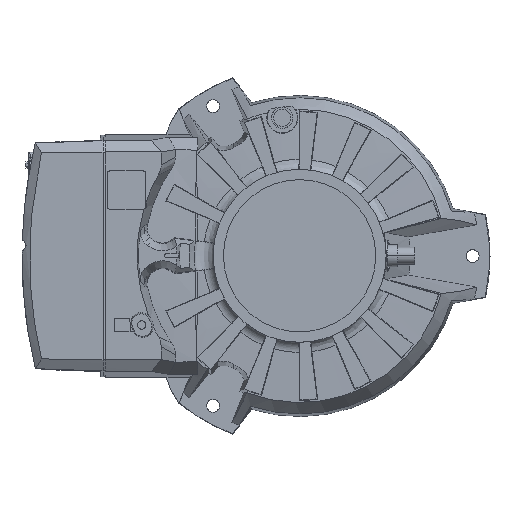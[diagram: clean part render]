
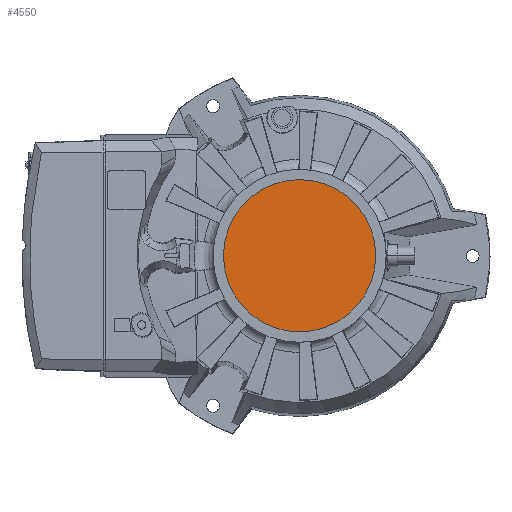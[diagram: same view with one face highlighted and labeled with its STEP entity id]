
A CAD part, top view. The second image highlights one B-rep face of the part: STEP entity #4550.
In plain terms, the highlighted planar face has unit normal (0, 0, 1).
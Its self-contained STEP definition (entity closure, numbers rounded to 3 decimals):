
#2663 = CIRCLE ( 'NONE', #17229, 110. ) ;
#4550 = ADVANCED_FACE ( 'NONE', ( #11442 ), #32034, .T. ) ;
#4883 = EDGE_CURVE ( 'NONE', #18296, #17300, #2663, .T. ) ;
#7425 = DIRECTION ( 'NONE',  ( 0., 0., -1. ) ) ;
#11442 = FACE_OUTER_BOUND ( 'NONE', #14906, .T. ) ;
#11471 = EDGE_CURVE ( 'NONE', #17300, #18296, #21529, .T. ) ;
#14340 = CARTESIAN_POINT ( 'NONE',  ( -110., 0., 231.9 ) ) ;
#14906 = EDGE_LOOP ( 'NONE', ( #34108, #19022 ) ) ;
#16025 = DIRECTION ( 'NONE',  ( 1., 0., 0. ) ) ;
#16072 = DIRECTION ( 'NONE',  ( 0., 0., -1. ) ) ;
#16553 = CARTESIAN_POINT ( 'NONE',  ( 0., 0., 231.9 ) ) ;
#17229 = AXIS2_PLACEMENT_3D ( 'NONE', #16553, #16072, #16025 ) ;
#17300 = VERTEX_POINT ( 'NONE', #14340 ) ;
#18296 = VERTEX_POINT ( 'NONE', #33988 ) ;
#19022 = ORIENTED_EDGE ( 'NONE', *, *, #11471, .F. ) ;
#21529 = CIRCLE ( 'NONE', #40186, 110. ) ;
#22219 = AXIS2_PLACEMENT_3D ( 'NONE', #31808, #31769, #31717 ) ;
#26043 = CARTESIAN_POINT ( 'NONE',  ( 0., 0., 231.9 ) ) ;
#29240 = DIRECTION ( 'NONE',  ( 1., 0., 0. ) ) ;
#31717 = DIRECTION ( 'NONE',  ( -1., 0., 0. ) ) ;
#31769 = DIRECTION ( 'NONE',  ( 0., 0., 1. ) ) ;
#31808 = CARTESIAN_POINT ( 'NONE',  ( 111.32, 111.32, 231.9 ) ) ;
#32034 = PLANE ( 'NONE',  #22219 ) ;
#33988 = CARTESIAN_POINT ( 'NONE',  ( 110., 0., 231.9 ) ) ;
#34108 = ORIENTED_EDGE ( 'NONE', *, *, #4883, .F. ) ;
#40186 = AXIS2_PLACEMENT_3D ( 'NONE', #26043, #7425, #29240 ) ;
